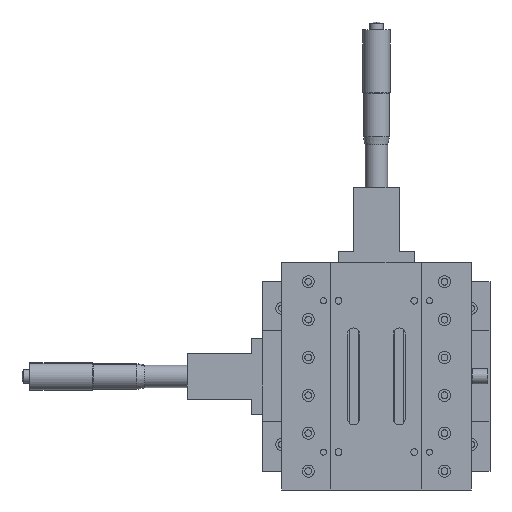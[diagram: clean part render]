
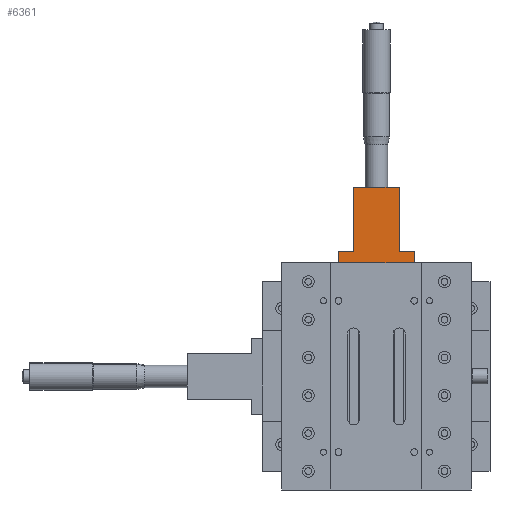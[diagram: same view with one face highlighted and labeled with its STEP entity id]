
A CAD part, front view. The second image highlights one B-rep face of the part: STEP entity #6361.
In plain terms, the highlighted planar face has unit normal (0, -1, 0).
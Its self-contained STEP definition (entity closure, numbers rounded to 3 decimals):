
#5587 = EDGE_CURVE ( 'NONE', #6001, #5970, #13081, .T. ) ;
#5606 = EDGE_CURVE ( 'NONE', #6001, #6006, #13114, .T. ) ;
#5615 = EDGE_CURVE ( 'NONE', #6016, #6006, #13129, .T. ) ;
#5618 = EDGE_CURVE ( 'NONE', #6018, #6016, #13135, .T. ) ;
#5620 = EDGE_CURVE ( 'NONE', #6019, #6018, #13133, .T. ) ;
#5622 = EDGE_CURVE ( 'NONE', #5970, #6020, #13142, .T. ) ;
#5623 = EDGE_CURVE ( 'NONE', #6023, #6020, #13144, .T. ) ;
#5624 = EDGE_CURVE ( 'NONE', #6023, #6019, #13146, .T. ) ;
#5970 = VERTEX_POINT ( 'NONE', #16006 ) ;
#6001 = VERTEX_POINT ( 'NONE', #16037 ) ;
#6006 = VERTEX_POINT ( 'NONE', #16042 ) ;
#6016 = VERTEX_POINT ( 'NONE', #16052 ) ;
#6018 = VERTEX_POINT ( 'NONE', #16054 ) ;
#6019 = VERTEX_POINT ( 'NONE', #16055 ) ;
#6020 = VERTEX_POINT ( 'NONE', #16056 ) ;
#6023 = VERTEX_POINT ( 'NONE', #16059 ) ;
#6101 = EDGE_LOOP ( 'NONE', ( #6465, #6466, #6467, #6468, #6469, #6470, #6471, #6472 ) ) ;
#6361 = ADVANCED_FACE ( 'NONE', ( #16703 ), #16272, .F. ) ;
#6465 = ORIENTED_EDGE ( 'NONE', *, *, #5620, .T. ) ;
#6466 = ORIENTED_EDGE ( 'NONE', *, *, #5618, .T. ) ;
#6467 = ORIENTED_EDGE ( 'NONE', *, *, #5615, .T. ) ;
#6468 = ORIENTED_EDGE ( 'NONE', *, *, #5606, .F. ) ;
#6469 = ORIENTED_EDGE ( 'NONE', *, *, #5587, .T. ) ;
#6470 = ORIENTED_EDGE ( 'NONE', *, *, #5622, .T. ) ;
#6471 = ORIENTED_EDGE ( 'NONE', *, *, #5623, .F. ) ;
#6472 = ORIENTED_EDGE ( 'NONE', *, *, #5624, .T. ) ;
#13081 = LINE ( 'NONE', #15671, #13086 ) ;
#13086 = VECTOR ( 'NONE', #15676, 1000. ) ;
#13114 = LINE ( 'NONE', #15719, #13117 ) ;
#13117 = VECTOR ( 'NONE', #15720, 1000. ) ;
#13129 = LINE ( 'NONE', #15741, #13132 ) ;
#13132 = VECTOR ( 'NONE', #15742, 1000. ) ;
#13133 = LINE ( 'NONE', #15746, #13141 ) ;
#13135 = LINE ( 'NONE', #15744, #13137 ) ;
#13137 = VECTOR ( 'NONE', #15737, 1000. ) ;
#13141 = VECTOR ( 'NONE', #15752, 1000. ) ;
#13142 = LINE ( 'NONE', #15755, #13145 ) ;
#13144 = LINE ( 'NONE', #15757, #13147 ) ;
#13145 = VECTOR ( 'NONE', #15756, 1000. ) ;
#13146 = LINE ( 'NONE', #15759, #13149 ) ;
#13147 = VECTOR ( 'NONE', #15758, 1000. ) ;
#13149 = VECTOR ( 'NONE', #15760, 1000. ) ;
#15255 = AXIS2_PLACEMENT_3D ( 'NONE', #16264, #16274, #16275 ) ;
#15671 = CARTESIAN_POINT ( 'NONE',  ( 0.515, -15.819, 82.5 ) ) ;
#15676 = DIRECTION ( 'NONE',  ( 0., 0., -1. ) ) ;
#15719 = CARTESIAN_POINT ( 'NONE',  ( -9.485, -15.819, 125. ) ) ;
#15720 = DIRECTION ( 'NONE',  ( 1., 0., 0. ) ) ;
#15737 = DIRECTION ( 'NONE',  ( -1., 0., 0. ) ) ;
#15741 = CARTESIAN_POINT ( 'NONE',  ( 30.515, -15.819, 82.5 ) ) ;
#15742 = DIRECTION ( 'NONE',  ( 0., 0., 1. ) ) ;
#15744 = CARTESIAN_POINT ( 'NONE',  ( 55.478, -15.819, 82.5 ) ) ;
#15746 = CARTESIAN_POINT ( 'NONE',  ( 40.515, -15.819, 125. ) ) ;
#15752 = DIRECTION ( 'NONE',  ( 0., 0., 1. ) ) ;
#15755 = CARTESIAN_POINT ( 'NONE',  ( 0.515, -15.819, 82.5 ) ) ;
#15756 = DIRECTION ( 'NONE',  ( -1., 0., 0. ) ) ;
#15757 = CARTESIAN_POINT ( 'NONE',  ( -9.485, -15.819, 125. ) ) ;
#15758 = DIRECTION ( 'NONE',  ( 0., 0., 1. ) ) ;
#15759 = CARTESIAN_POINT ( 'NONE',  ( -9.485, -15.819, 75. ) ) ;
#15760 = DIRECTION ( 'NONE',  ( 1., 0., 0. ) ) ;
#16006 = CARTESIAN_POINT ( 'NONE',  ( 0.515, -15.819, 82.5 ) ) ;
#16037 = CARTESIAN_POINT ( 'NONE',  ( 0.515, -15.819, 125. ) ) ;
#16042 = CARTESIAN_POINT ( 'NONE',  ( 30.515, -15.819, 125. ) ) ;
#16052 = CARTESIAN_POINT ( 'NONE',  ( 30.515, -15.819, 82.5 ) ) ;
#16054 = CARTESIAN_POINT ( 'NONE',  ( 40.515, -15.819, 82.5 ) ) ;
#16055 = CARTESIAN_POINT ( 'NONE',  ( 40.515, -15.819, 75. ) ) ;
#16056 = CARTESIAN_POINT ( 'NONE',  ( -9.485, -15.819, 82.5 ) ) ;
#16059 = CARTESIAN_POINT ( 'NONE',  ( -9.485, -15.819, 75. ) ) ;
#16264 = CARTESIAN_POINT ( 'NONE',  ( -9.485, -15.819, 125. ) ) ;
#16272 = PLANE ( 'NONE',  #15255 ) ;
#16274 = DIRECTION ( 'NONE',  ( 0., 1., 0. ) ) ;
#16275 = DIRECTION ( 'NONE',  ( 0., 0., -1. ) ) ;
#16703 = FACE_OUTER_BOUND ( 'NONE', #6101, .T. ) ;
